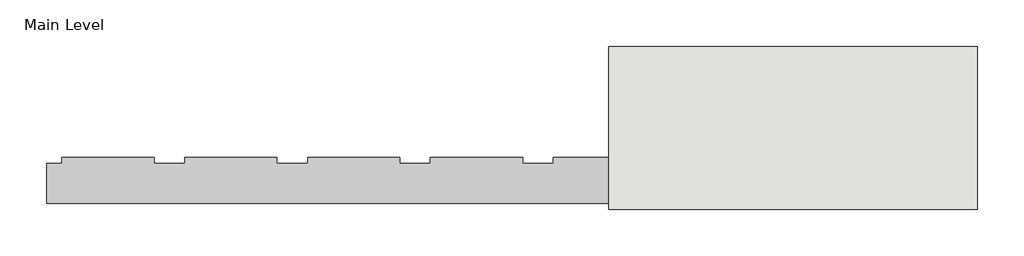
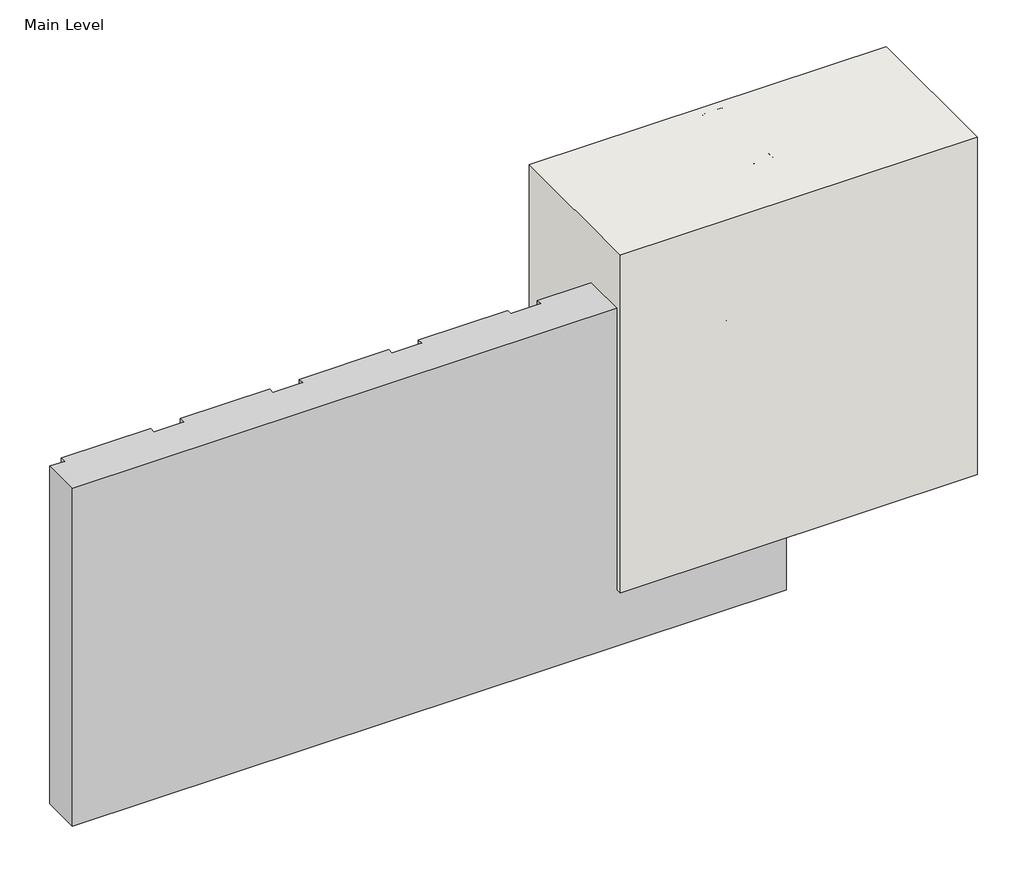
# One storey, incomplete: 9 proxies, 1 wall.
"""IFC4 building model written with IfcOpenShell, lengths in millimetres."""

from ifc_helpers import new_model, si_unit, origin, origin_with_axes, place, context, project, spatial, polyline, outline, extrude, transform, mapped, element, save
from components import generic_models_8c792c9c, generic_models_3031e4fa, generic_models_38adcc71, generic_models_03ec6e0e, proxy_b68172d9, proxy_5fc139d0, finish_coat_valley_finish_coat_valley_47fa743d, proxy_d4c17246

model = new_model("IFC4")

# Units and contexts
model_context = context("Model", 3, world=origin())
ifc_project = project(units=[si_unit("LENGTHUNIT", "METRE", prefix="MILLI")], contexts=[model_context])

# Site, building, storey
site = spatial("IfcSite", under=ifc_project)
building = spatial("IfcBuilding", under=site)
storey = spatial("IfcBuildingStorey", under=building, Name="Main Level", Elevation=0.0)

# Proxies
placement = place(None, origin())
generic_models_shape = generic_models_8c792c9c(model_context)
element("IfcBuildingElementProxy", 1, Name="Durabond Generic Model Screw w Standard Wall Plate : Durabond Generic Model Screw w Standard Wall Plate", ObjectType="Durabond Generic Model Screw w Standard Wall Plate : Durabond Generic Model Screw w Standard Wall Plate", at=placement, inside=storey, context=model_context, shape_type="MappedRepresentation", body=[
    mapped(generic_models_shape, transform((26761.4289273, 553.8106599, 470.0678871), x_axis=(1.0, 0.0, 0.0), y_axis=(0.0, 0.0, 1.0), z_axis=(0.0, -1.0, 0.0))),
])
generic_models_2_shape = generic_models_3031e4fa(model_context)
element("IfcBuildingElementProxy", 2, Name="Durabond Generic Model Screw w Standard Wall Plate : Durabond Generic Model Screw w Standard Wall Plate", ObjectType="Durabond Generic Model Screw w Standard Wall Plate : Durabond Generic Model Screw w Standard Wall Plate", at=placement, inside=storey, context=model_context, shape_type="MappedRepresentation", body=[
    mapped(generic_models_2_shape, transform((26710.6289273, 550.6356599, 419.2678871), x_axis=(-1.0, 0.0, 0.0), y_axis=(0.0, 0.0, -1.0), z_axis=(0.0, -1.0, 0.0))),
])
generic_models_3_shape = generic_models_38adcc71(model_context)
element("IfcBuildingElementProxy", 3, Name="CRAi Generic Model Backer Rod and Sealant : CRAi Generic Model Backer Rod and Sealant", ObjectType="CRAi Generic Model Backer Rod and Sealant : CRAi Generic Model Backer Rod and Sealant", at=placement, inside=storey, context=model_context, shape_type="MappedRepresentation", body=[
    mapped(generic_models_3_shape, transform((26824.9289273, 576.8316297, 0.0), x_axis=(1.0, 0.0, 0.0), y_axis=(0.0, 1.0, 0.0), z_axis=(0.0, 0.0, 1.0))),
])
generic_models_4_shape = generic_models_03ec6e0e(model_context)
element("IfcBuildingElementProxy", 4, Name="CRAi Generic Model Drywall Screw : CRAi Generic Model Drywall Screw", ObjectType="CRAi Generic Model Drywall Screw : CRAi Generic Model Drywall Screw", at=placement, inside=storey, context=model_context, shape_type="MappedRepresentation", body=[
    mapped(generic_models_4_shape, transform((26834.4539273, 633.9816297, 584.2), x_axis=(1.0, 0.0, 0.0), y_axis=(0.0, 0.0, 1.0), z_axis=(0.0, -1.0, 0.0))),
])
element("IfcBuildingElementProxy", 5, Name="CRAi Generic Model Drywall Screw : CRAi Generic Model Drywall Screw", ObjectType="CRAi Generic Model Drywall Screw : CRAi Generic Model Drywall Screw", at=placement, inside=storey, context=model_context, shape_type="MappedRepresentation", body=[
    mapped(generic_models_4_shape, transform((26815.4039273, 633.9816297, 584.2), x_axis=(1.0, 0.0, 0.0), y_axis=(0.0, 0.0, 1.0), z_axis=(0.0, -1.0, 0.0))),
])
proxy_shape = proxy_b68172d9(model_context)
element("IfcBuildingElementProxy", 6, Name="Durabond Generic Model Insulite Select Extruded Insulation Board : 3\"", ObjectType="Durabond Generic Model Insulite Select Extruded Insulation Board : 3\"", at=placement, inside=storey, context=model_context, shape_type="MappedRepresentation", body=[
    mapped(proxy_shape, transform((26199.4539273, 630.8048866, 203.3487758), x_axis=(1.0, 0.0, 0.0), y_axis=(0.0, 0.0, 1.0), z_axis=(0.0, -1.0, 0.0))),
])
proxy_2_shape = proxy_5fc139d0(model_context)
element("IfcBuildingElementProxy", 7, Name="Durabond Generic Model Barrier Seam Tape Straight : 4\" Barrier Seam Tape", ObjectType="Durabond Generic Model Barrier Seam Tape Straight : 4\" Barrier Seam Tape", at=placement, inside=storey, context=model_context, shape_type="MappedRepresentation", body=[
    mapped(proxy_2_shape, transform((26875.7289273, 633.9816297, 0.0), x_axis=(1.0, 0.0, 0.0), y_axis=(0.0, 1.0, 0.0), z_axis=(0.0, 0.0, 1.0))),
])
finish_coat_valley_finish_coat_valley_shape = finish_coat_valley_finish_coat_valley_47fa743d(model_context)
element("IfcBuildingElementProxy", 8, Name="Finish Coat Valley : Finish Coat Valley", ObjectType="Finish Coat Valley : Finish Coat Valley", at=placement, inside=storey, context=model_context, shape_type="MappedRepresentation", body=[
    mapped(finish_coat_valley_finish_coat_valley_shape, transform((0.0, 0.0, 0.0), x_axis=(1.0, 0.0, 0.0), y_axis=(0.0, 1.0, 0.0), z_axis=(0.0, 0.0, 1.0))),
])
proxy_3_shape = proxy_d4c17246(model_context)
element("IfcBuildingElementProxy", 9, Name="CRAi Generic Model Metal Stud : Metal Framing Stud - 1\" x 3.5\"", ObjectType="CRAi Generic Model Metal Stud : Metal Framing Stud - 1\" x 3.5\"", at=placement, inside=storey, context=model_context, shape_type="MappedRepresentation", body=[
    mapped(proxy_3_shape, transform((26824.9289273, 726.0566297, 0.0), x_axis=(1.0, 0.0, 0.0), y_axis=(0.0, 1.0, 0.0), z_axis=(0.0, 0.0, 1.0))),
])

# Wall
element("IfcWall", 10, ObjectType="189mm (7.5”) EIFS Field Applied on Mtl. Stud Layer - 50mm Grooved Insulation Board Metal Stud Wall(AirStop) 2", at=placement, inside=storey, context=model_context, shape_type="SweptSolid", body=[
    extrude(outline(polyline([(27129.7289273, 545.0816297), (26520.1289273, 545.0816297), (26520.1289273, 814.9566297), (27129.7289273, 814.9566297), (27129.7289273, 545.0816297)])), origin_with_axes(), (0.0, 0.0, 1.0), 609.6),
])

save(model, "model.ifc")
